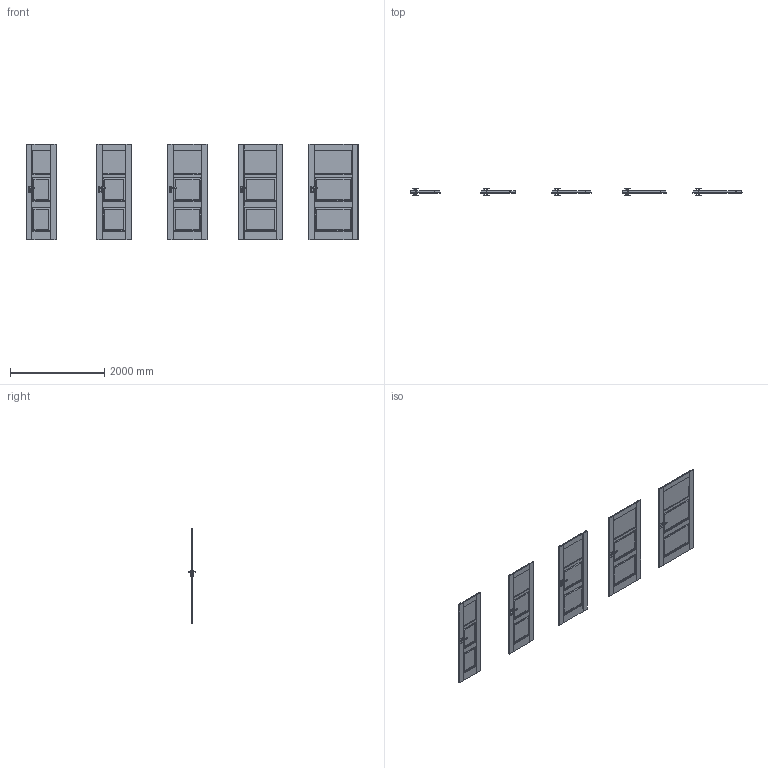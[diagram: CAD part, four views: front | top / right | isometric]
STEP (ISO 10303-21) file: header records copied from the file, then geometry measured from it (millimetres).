
FILE_DESCRIPTION(/* description */ (''),/* implementation_level */ '2;1');
FILE_NAME(/* name */ '050219_A_2-Skrzydło CORDOBA model małe okienko_ polska norma _PN__ przylgowe..stp',/* time_stamp */ '2025-01-15T12:23:29+01:00',/* author */ (''),/* organization */ (''),/* preprocessor_version */ 'ST-DEVELOPER v16',/* originating_system */ 'SIEMENS PLM Software NX 11.0',/* authorisation */ '');
FILE_SCHEMA (('AUTOMOTIVE_DESIGN { 1 0 10303 214 3 1 1 1 }'));
Products named in the file (1): bkni417CD1694kpu
Bounding box: 7044 x 153.13 x 2030 mm (x, y, z)
Volume: 209568849.3 mm3; surface area: 20280648.1 mm2
Topology: 25 solids, 30 shells, 1990 faces, 5630 edges, 3470 vertices
Faces by surface type: plane 1365, cylinder 325, bspline 160, sphere 140
Entity records: 68533 total; most frequent: CARTESIAN_POINT 18106, ORIENTED_EDGE 10980, DIRECTION 9737, EDGE_CURVE 5490, LINE 4215, VECTOR 4215, VERTEX_POINT 3470, AXIS2_PLACEMENT_3D 2761
